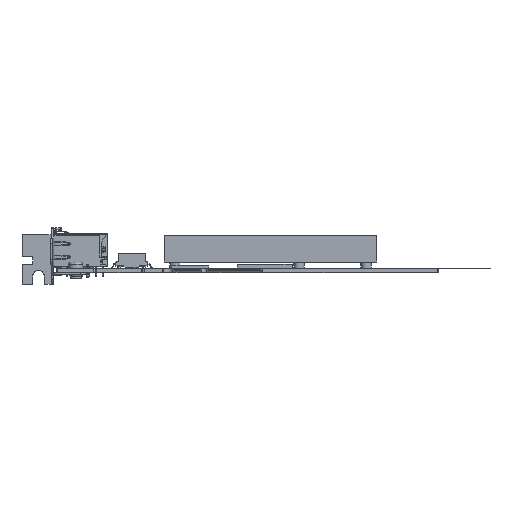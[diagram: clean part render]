
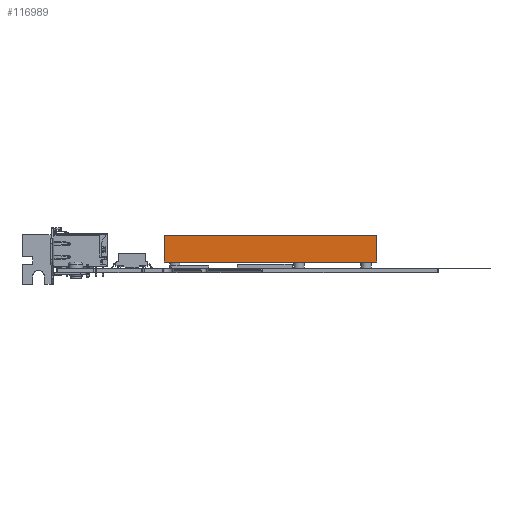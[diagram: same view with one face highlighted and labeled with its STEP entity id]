
A CAD part, top view. The second image highlights one B-rep face of the part: STEP entity #116989.
In plain terms, the highlighted planar face has unit normal (0, 0, 1) as drawn and (1, 0, 0) by its records, which use the part's own axes.
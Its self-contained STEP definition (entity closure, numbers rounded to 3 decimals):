
#115619=DIRECTION('',(0.,1.,0.));
#115620=VECTOR('',#115619,10.1);
#115621=CARTESIAN_POINT('',(27.5,0.,47.));
#115622=LINE('',#115621,#115620);
#115623=DIRECTION('',(0.,-1.,0.));
#115624=VECTOR('',#115623,10.1);
#115625=CARTESIAN_POINT('',(27.5,10.1,-35.));
#115626=LINE('',#115625,#115624);
#115627=DIRECTION('',(0.,0.,1.));
#115628=VECTOR('',#115627,82.);
#115629=CARTESIAN_POINT('',(27.5,0.,-35.));
#115630=LINE('',#115629,#115628);
#115639=DIRECTION('',(0.,0.,1.));
#115640=VECTOR('',#115639,82.);
#115641=CARTESIAN_POINT('',(27.5,10.1,-35.));
#115642=LINE('',#115641,#115640);
#115647=CARTESIAN_POINT('',(27.5,0.,-35.));
#115649=VERTEX_POINT('',#115647);
#115659=CARTESIAN_POINT('',(27.5,10.1,-35.));
#115660=VERTEX_POINT('',#115659);
#115784=CARTESIAN_POINT('',(27.5,0.,47.));
#115786=VERTEX_POINT('',#115784);
#115795=CARTESIAN_POINT('',(27.5,10.1,47.));
#115796=VERTEX_POINT('',#115795);
#116977=CARTESIAN_POINT('',(27.5,0.,51.));
#116978=DIRECTION('',(1.,0.,0.));
#116979=DIRECTION('',(0.,0.,-1.));
#116980=AXIS2_PLACEMENT_3D('',#116977,#116978,#116979);
#116981=PLANE('',#116980);
#116982=ORIENTED_EDGE('',*,*,#116327,.T.);
#116984=ORIENTED_EDGE('',*,*,#116983,.F.);
#116985=ORIENTED_EDGE('',*,*,#116449,.T.);
#116986=ORIENTED_EDGE('',*,*,#115910,.T.);
#116987=EDGE_LOOP('',(#116982,#116984,#116985,#116986));
#116988=FACE_OUTER_BOUND('',#116987,.F.);
#116989=ADVANCED_FACE('',(#116988),#116981,.T.);
#115910=EDGE_CURVE('',#115649,#115786,#115630,.T.);
#116327=EDGE_CURVE('',#115786,#115796,#115622,.T.);
#116449=EDGE_CURVE('',#115660,#115649,#115626,.T.);
#116983=EDGE_CURVE('',#115660,#115796,#115642,.T.);
